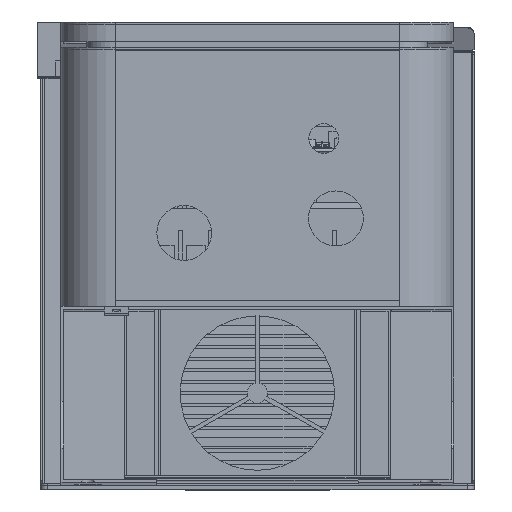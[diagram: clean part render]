
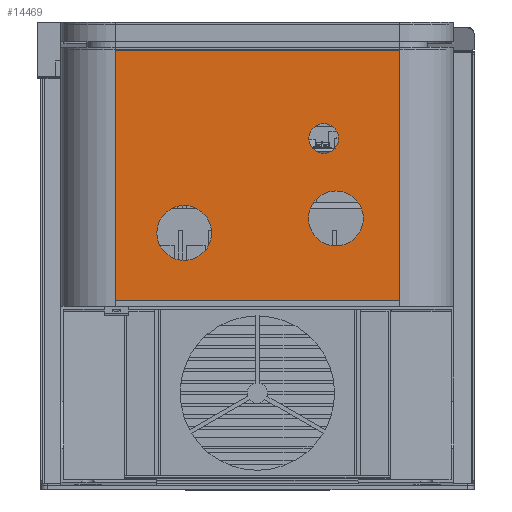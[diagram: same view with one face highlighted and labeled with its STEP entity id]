
A CAD part, top view. The second image highlights one B-rep face of the part: STEP entity #14469.
In plain terms, the highlighted planar face has unit normal (0, 0, 1).
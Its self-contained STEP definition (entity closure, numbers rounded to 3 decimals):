
#262=DIRECTION('',(0.,1.,0.));
#263=VECTOR('',#262,185.);
#264=CARTESIAN_POINT('',(-105.,132.,236.5));
#265=LINE('',#264,#263);
#266=DIRECTION('',(1.,0.,0.));
#267=VECTOR('',#266,210.);
#268=CARTESIAN_POINT('',(-105.,317.,236.5));
#269=LINE('',#268,#267);
#270=DIRECTION('',(0.,-1.,0.));
#271=VECTOR('',#270,185.);
#272=CARTESIAN_POINT('',(105.,317.,236.5));
#273=LINE('',#272,#271);
#274=DIRECTION('',(-1.,0.,0.));
#275=VECTOR('',#274,210.);
#276=CARTESIAN_POINT('',(105.,132.,236.5));
#277=LINE('',#276,#275);
#278=CARTESIAN_POINT('',(58.,193.,236.5));
#279=DIRECTION('',(0.,0.,1.));
#280=DIRECTION('',(1.,0.,0.));
#281=AXIS2_PLACEMENT_3D('',#278,#279,#280);
#283=CARTESIAN_POINT('',(58.,193.,236.5));
#284=DIRECTION('',(0.,0.,1.));
#285=DIRECTION('',(-1.,0.,0.));
#286=AXIS2_PLACEMENT_3D('',#283,#284,#285);
#288=CARTESIAN_POINT('',(-54.,182.2,236.5));
#289=DIRECTION('',(0.,0.,1.));
#290=DIRECTION('',(1.,0.,0.));
#291=AXIS2_PLACEMENT_3D('',#288,#289,#290);
#293=CARTESIAN_POINT('',(-54.,182.2,236.5));
#294=DIRECTION('',(0.,0.,1.));
#295=DIRECTION('',(-1.,0.,0.));
#296=AXIS2_PLACEMENT_3D('',#293,#294,#295);
#298=CARTESIAN_POINT('',(49.,252.,236.5));
#299=DIRECTION('',(0.,0.,1.));
#300=DIRECTION('',(1.,0.,0.));
#301=AXIS2_PLACEMENT_3D('',#298,#299,#300);
#303=CARTESIAN_POINT('',(49.,252.,236.5));
#304=DIRECTION('',(0.,0.,1.));
#305=DIRECTION('',(-1.,0.,0.));
#306=AXIS2_PLACEMENT_3D('',#303,#304,#305);
#10764=CARTESIAN_POINT('',(-105.,317.,236.5));
#10766=VERTEX_POINT('',#10764);
#10768=CARTESIAN_POINT('',(-105.,132.,236.5));
#10769=VERTEX_POINT('',#10768);
#10774=CARTESIAN_POINT('',(105.,317.,236.5));
#10775=VERTEX_POINT('',#10774);
#10920=CARTESIAN_POINT('',(105.,132.,236.5));
#10921=VERTEX_POINT('',#10920);
#10922=CARTESIAN_POINT('',(78.25,193.,236.5));
#10923=CARTESIAN_POINT('',(37.75,193.,236.5));
#10924=VERTEX_POINT('',#10922);
#10925=VERTEX_POINT('',#10923);
#10926=CARTESIAN_POINT('',(-33.75,182.2,236.5));
#10927=CARTESIAN_POINT('',(-74.25,182.2,236.5));
#10928=VERTEX_POINT('',#10926);
#10929=VERTEX_POINT('',#10927);
#10930=CARTESIAN_POINT('',(60.,252.,236.5));
#10931=CARTESIAN_POINT('',(38.,252.,236.5));
#10932=VERTEX_POINT('',#10930);
#10933=VERTEX_POINT('',#10931);
#14440=CARTESIAN_POINT('',(0.,224.5,236.5));
#14441=DIRECTION('',(0.,0.,1.));
#14442=DIRECTION('',(1.,0.,0.));
#14443=AXIS2_PLACEMENT_3D('',#14440,#14441,#14442);
#14444=PLANE('',#14443);
#14445=ORIENTED_EDGE('',*,*,#14061,.T.);
#14446=ORIENTED_EDGE('',*,*,#14079,.T.);
#14447=ORIENTED_EDGE('',*,*,#14420,.T.);
#14448=ORIENTED_EDGE('',*,*,#14434,.T.);
#14449=EDGE_LOOP('',(#14445,#14446,#14447,#14448));
#14450=FACE_OUTER_BOUND('',#14449,.F.);
#14452=ORIENTED_EDGE('',*,*,#14451,.T.);
#14454=ORIENTED_EDGE('',*,*,#14453,.T.);
#14455=EDGE_LOOP('',(#14452,#14454));
#14456=FACE_BOUND('',#14455,.F.);
#14458=ORIENTED_EDGE('',*,*,#14457,.T.);
#14460=ORIENTED_EDGE('',*,*,#14459,.T.);
#14461=EDGE_LOOP('',(#14458,#14460));
#14462=FACE_BOUND('',#14461,.F.);
#14464=ORIENTED_EDGE('',*,*,#14463,.T.);
#14466=ORIENTED_EDGE('',*,*,#14465,.T.);
#14467=EDGE_LOOP('',(#14464,#14466));
#14468=FACE_BOUND('',#14467,.F.);
#14469=ADVANCED_FACE('',(#14450,#14456,#14462,#14468),#14444,.T.);
#282=CIRCLE('',#281,20.25);
#287=CIRCLE('',#286,20.25);
#292=CIRCLE('',#291,20.25);
#297=CIRCLE('',#296,20.25);
#302=CIRCLE('',#301,11.);
#307=CIRCLE('',#306,11.);
#14061=EDGE_CURVE('',#10769,#10766,#265,.T.);
#14079=EDGE_CURVE('',#10766,#10775,#269,.T.);
#14420=EDGE_CURVE('',#10775,#10921,#273,.T.);
#14434=EDGE_CURVE('',#10921,#10769,#277,.T.);
#14451=EDGE_CURVE('',#10924,#10925,#282,.T.);
#14453=EDGE_CURVE('',#10925,#10924,#287,.T.);
#14457=EDGE_CURVE('',#10928,#10929,#292,.T.);
#14459=EDGE_CURVE('',#10929,#10928,#297,.T.);
#14463=EDGE_CURVE('',#10932,#10933,#302,.T.);
#14465=EDGE_CURVE('',#10933,#10932,#307,.T.);
